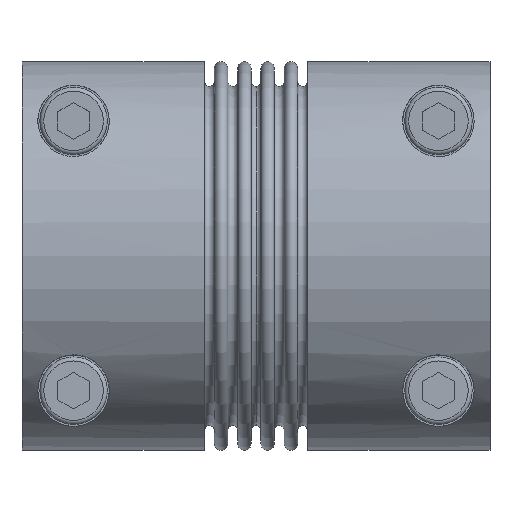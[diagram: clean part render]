
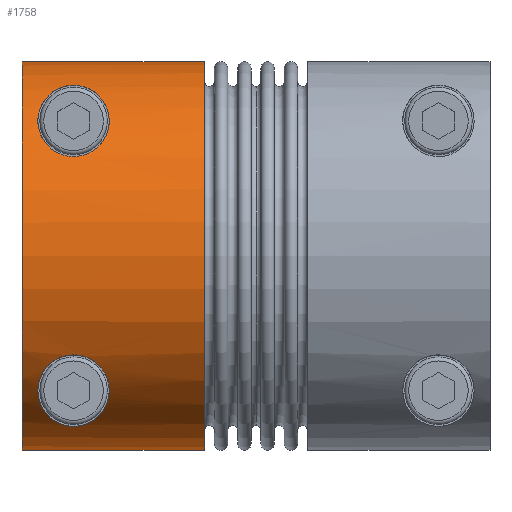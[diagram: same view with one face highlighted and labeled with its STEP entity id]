
A CAD part, top view. The second image highlights one B-rep face of the part: STEP entity #1758.
In plain terms, the highlighted cylindrical face has radius 24.5 mm (diameter 49 mm), a full revolution.
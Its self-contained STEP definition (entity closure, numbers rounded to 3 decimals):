
#89=FACE_BOUND('',#563,.T.);
#90=FACE_BOUND('',#564,.T.);
#121=B_SPLINE_CURVE_WITH_KNOTS('',3,(#2847,#2848,#2849,#2850,#2851,#2852,
#2853,#2854,#2855,#2856,#2857,#2858,#2859,#2860,#2861,#2862,#2863,#2864,
#2865,#2866,#2867,#2868,#2869,#2870,#2871,#2872,#2873,#2874,#2875,#2876,
#2877,#2878,#2879,#2880,#2881,#2882,#2883,#2884),.UNSPECIFIED.,.T.,.F.,
(4,2,2,2,2,2,2,2,2,2,2,2,2,2,2,2,2,2,4),(0.,0.166,0.332,
0.553,0.774,1.048,1.321,1.501,
1.591,1.68,1.77,1.86,2.039,
2.313,2.586,2.808,3.029,3.195,
3.361),.UNSPECIFIED.);
#122=B_SPLINE_CURVE_WITH_KNOTS('',3,(#2890,#2891,#2892,#2893,#2894,#2895,
#2896,#2897,#2898,#2899,#2900,#2901,#2902,#2903,#2904,#2905,#2906,#2907,
#2908,#2909,#2910,#2911,#2912,#2913,#2914,#2915,#2916,#2917,#2918,#2919,
#2920,#2921,#2922,#2923,#2924,#2925,#2926,#2927),.UNSPECIFIED.,.T.,.F.,
(4,2,2,2,2,2,2,2,2,2,2,2,2,2,2,2,2,2,4),(0.,0.09,0.179,
0.359,0.633,0.906,1.127,1.348,
1.514,1.68,1.846,2.012,2.233,
2.454,2.728,3.002,3.181,3.271,
3.361),.UNSPECIFIED.);
#138=LINE('',#2941,#279);
#139=LINE('',#2945,#280);
#140=LINE('',#2949,#281);
#279=VECTOR('',#2252,24.5);
#280=VECTOR('',#2255,15.);
#281=VECTOR('',#2258,15.);
#420=CYLINDRICAL_SURFACE('',#1948,24.5);
#453=FACE_OUTER_BOUND('',#562,.T.);
#562=EDGE_LOOP('',(#1311,#1312,#1313,#1314,#1315,#1316,#1317,#1318));
#563=EDGE_LOOP('',(#1319));
#564=EDGE_LOOP('',(#1320));
#743=CIRCLE('',#1949,24.5);
#744=CIRCLE('',#1950,24.5);
#745=CIRCLE('',#1951,24.5);
#746=CIRCLE('',#1952,24.5);
#831=VERTEX_POINT('',#2846);
#833=VERTEX_POINT('',#2889);
#837=VERTEX_POINT('',#2938);
#838=VERTEX_POINT('',#2940);
#839=VERTEX_POINT('',#2942);
#840=VERTEX_POINT('',#2944);
#841=VERTEX_POINT('',#2946);
#842=VERTEX_POINT('',#2948);
#1023=EDGE_CURVE('',#831,#831,#121,.T.);
#1026=EDGE_CURVE('',#833,#833,#122,.T.);
#1032=EDGE_CURVE('',#837,#837,#743,.T.);
#1033=EDGE_CURVE('',#837,#838,#138,.T.);
#1034=EDGE_CURVE('',#839,#838,#744,.T.);
#1035=EDGE_CURVE('',#840,#839,#139,.T.);
#1036=EDGE_CURVE('',#841,#840,#745,.T.);
#1037=EDGE_CURVE('',#842,#841,#140,.T.);
#1038=EDGE_CURVE('',#838,#842,#746,.T.);
#1311=ORIENTED_EDGE('',*,*,#1032,.T.);
#1312=ORIENTED_EDGE('',*,*,#1033,.T.);
#1313=ORIENTED_EDGE('',*,*,#1034,.F.);
#1314=ORIENTED_EDGE('',*,*,#1035,.F.);
#1315=ORIENTED_EDGE('',*,*,#1036,.F.);
#1316=ORIENTED_EDGE('',*,*,#1037,.F.);
#1317=ORIENTED_EDGE('',*,*,#1038,.F.);
#1318=ORIENTED_EDGE('',*,*,#1033,.F.);
#1319=ORIENTED_EDGE('',*,*,#1026,.F.);
#1320=ORIENTED_EDGE('',*,*,#1023,.F.);
#1758=ADVANCED_FACE('',(#453,#89,#90),#420,.T.);
#1948=AXIS2_PLACEMENT_3D('',#2937,#2248,#2249);
#1949=AXIS2_PLACEMENT_3D('',#2939,#2250,#2251);
#1950=AXIS2_PLACEMENT_3D('',#2943,#2253,#2254);
#1951=AXIS2_PLACEMENT_3D('',#2947,#2256,#2257);
#1952=AXIS2_PLACEMENT_3D('',#2950,#2259,#2260);
#2248=DIRECTION('center_axis',(1.,0.,0.));
#2249=DIRECTION('ref_axis',(0.,1.,0.));
#2250=DIRECTION('center_axis',(-1.,0.,0.));
#2251=DIRECTION('ref_axis',(0.,1.,0.));
#2252=DIRECTION('',(-1.,0.,0.));
#2253=DIRECTION('center_axis',(-1.,0.,0.));
#2254=DIRECTION('ref_axis',(0.,-1.,0.));
#2255=DIRECTION('',(1.,0.,0.));
#2256=DIRECTION('center_axis',(-1.,0.,0.));
#2257=DIRECTION('ref_axis',(0.,1.,0.));
#2258=DIRECTION('',(-1.,0.,0.));
#2259=DIRECTION('center_axis',(-1.,0.,0.));
#2260=DIRECTION('ref_axis',(0.,-1.,0.));
#2846=CARTESIAN_POINT('',(6.5,-12.5,21.071));
#2847=CARTESIAN_POINT('Ctrl Pts',(6.5,-12.5,21.071));
#2848=CARTESIAN_POINT('Ctrl Pts',(5.947,-12.5,21.071));
#2849=CARTESIAN_POINT('Ctrl Pts',(5.363,-12.609,21.008));
#2850=CARTESIAN_POINT('Ctrl Pts',(4.304,-13.031,20.749));
#2851=CARTESIAN_POINT('Ctrl Pts',(3.83,-13.343,20.552));
#2852=CARTESIAN_POINT('Ctrl Pts',(2.964,-14.137,20.017));
#2853=CARTESIAN_POINT('Ctrl Pts',(2.58,-14.701,19.613));
#2854=CARTESIAN_POINT('Ctrl Pts',(2.099,-15.868,18.682));
#2855=CARTESIAN_POINT('Ctrl Pts',(2.,-16.469,18.154));
#2856=CARTESIAN_POINT('Ctrl Pts',(2.,-17.657,17.01));
#2857=CARTESIAN_POINT('Ctrl Pts',(2.149,-18.324,16.29));
#2858=CARTESIAN_POINT('Ctrl Pts',(2.712,-19.518,14.839));
#2859=CARTESIAN_POINT('Ctrl Pts',(3.124,-20.046,14.106));
#2860=CARTESIAN_POINT('Ctrl Pts',(3.958,-20.738,13.055));
#2861=CARTESIAN_POINT('Ctrl Pts',(4.375,-21.001,12.623));
#2862=CARTESIAN_POINT('Ctrl Pts',(5.104,-21.286,12.132));
#2863=CARTESIAN_POINT('Ctrl Pts',(5.364,-21.363,11.995));
#2864=CARTESIAN_POINT('Ctrl Pts',(5.912,-21.47,11.802));
#2865=CARTESIAN_POINT('Ctrl Pts',(6.201,-21.5,11.747));
#2866=CARTESIAN_POINT('Ctrl Pts',(6.799,-21.5,11.747));
#2867=CARTESIAN_POINT('Ctrl Pts',(7.088,-21.47,11.802));
#2868=CARTESIAN_POINT('Ctrl Pts',(7.636,-21.363,11.995));
#2869=CARTESIAN_POINT('Ctrl Pts',(7.896,-21.286,12.132));
#2870=CARTESIAN_POINT('Ctrl Pts',(8.625,-21.001,12.623));
#2871=CARTESIAN_POINT('Ctrl Pts',(9.042,-20.738,13.055));
#2872=CARTESIAN_POINT('Ctrl Pts',(9.876,-20.046,14.106));
#2873=CARTESIAN_POINT('Ctrl Pts',(10.288,-19.518,14.839));
#2874=CARTESIAN_POINT('Ctrl Pts',(10.851,-18.324,16.29));
#2875=CARTESIAN_POINT('Ctrl Pts',(11.,-17.657,17.01));
#2876=CARTESIAN_POINT('Ctrl Pts',(11.,-16.469,18.154));
#2877=CARTESIAN_POINT('Ctrl Pts',(10.901,-15.868,18.682));
#2878=CARTESIAN_POINT('Ctrl Pts',(10.42,-14.701,19.613));
#2879=CARTESIAN_POINT('Ctrl Pts',(10.036,-14.137,20.017));
#2880=CARTESIAN_POINT('Ctrl Pts',(9.17,-13.343,20.552));
#2881=CARTESIAN_POINT('Ctrl Pts',(8.696,-13.031,20.749));
#2882=CARTESIAN_POINT('Ctrl Pts',(7.637,-12.609,21.008));
#2883=CARTESIAN_POINT('Ctrl Pts',(7.053,-12.5,21.071));
#2884=CARTESIAN_POINT('Ctrl Pts',(6.5,-12.5,21.071));
#2889=CARTESIAN_POINT('',(6.5,12.5,21.071));
#2890=CARTESIAN_POINT('Ctrl Pts',(6.5,21.5,11.747));
#2891=CARTESIAN_POINT('Ctrl Pts',(6.201,21.5,11.747));
#2892=CARTESIAN_POINT('Ctrl Pts',(5.912,21.47,11.802));
#2893=CARTESIAN_POINT('Ctrl Pts',(5.364,21.363,11.995));
#2894=CARTESIAN_POINT('Ctrl Pts',(5.104,21.286,12.132));
#2895=CARTESIAN_POINT('Ctrl Pts',(4.375,21.001,12.623));
#2896=CARTESIAN_POINT('Ctrl Pts',(3.958,20.738,13.055));
#2897=CARTESIAN_POINT('Ctrl Pts',(3.124,20.046,14.106));
#2898=CARTESIAN_POINT('Ctrl Pts',(2.712,19.518,14.839));
#2899=CARTESIAN_POINT('Ctrl Pts',(2.149,18.324,16.29));
#2900=CARTESIAN_POINT('Ctrl Pts',(2.,17.657,17.01));
#2901=CARTESIAN_POINT('Ctrl Pts',(2.,16.469,18.154));
#2902=CARTESIAN_POINT('Ctrl Pts',(2.099,15.868,18.682));
#2903=CARTESIAN_POINT('Ctrl Pts',(2.58,14.701,19.613));
#2904=CARTESIAN_POINT('Ctrl Pts',(2.964,14.137,20.017));
#2905=CARTESIAN_POINT('Ctrl Pts',(3.83,13.343,20.552));
#2906=CARTESIAN_POINT('Ctrl Pts',(4.304,13.031,20.749));
#2907=CARTESIAN_POINT('Ctrl Pts',(5.363,12.609,21.008));
#2908=CARTESIAN_POINT('Ctrl Pts',(5.947,12.5,21.071));
#2909=CARTESIAN_POINT('Ctrl Pts',(7.053,12.5,21.071));
#2910=CARTESIAN_POINT('Ctrl Pts',(7.637,12.609,21.008));
#2911=CARTESIAN_POINT('Ctrl Pts',(8.696,13.031,20.749));
#2912=CARTESIAN_POINT('Ctrl Pts',(9.17,13.343,20.552));
#2913=CARTESIAN_POINT('Ctrl Pts',(10.036,14.137,20.017));
#2914=CARTESIAN_POINT('Ctrl Pts',(10.42,14.701,19.613));
#2915=CARTESIAN_POINT('Ctrl Pts',(10.901,15.868,18.682));
#2916=CARTESIAN_POINT('Ctrl Pts',(11.,16.469,18.154));
#2917=CARTESIAN_POINT('Ctrl Pts',(11.,17.657,17.01));
#2918=CARTESIAN_POINT('Ctrl Pts',(10.851,18.324,16.29));
#2919=CARTESIAN_POINT('Ctrl Pts',(10.288,19.518,14.839));
#2920=CARTESIAN_POINT('Ctrl Pts',(9.876,20.046,14.106));
#2921=CARTESIAN_POINT('Ctrl Pts',(9.042,20.738,13.055));
#2922=CARTESIAN_POINT('Ctrl Pts',(8.625,21.001,12.623));
#2923=CARTESIAN_POINT('Ctrl Pts',(7.896,21.286,12.132));
#2924=CARTESIAN_POINT('Ctrl Pts',(7.636,21.363,11.995));
#2925=CARTESIAN_POINT('Ctrl Pts',(7.088,21.47,11.802));
#2926=CARTESIAN_POINT('Ctrl Pts',(6.799,21.5,11.747));
#2927=CARTESIAN_POINT('Ctrl Pts',(6.5,21.5,11.747));
#2937=CARTESIAN_POINT('Origin',(0.,0.,0.));
#2938=CARTESIAN_POINT('',(23.,-24.5,0.));
#2939=CARTESIAN_POINT('Origin',(23.,0.,0.));
#2940=CARTESIAN_POINT('',(15.,-24.5,0.));
#2941=CARTESIAN_POINT('',(0.,-24.5,0.));
#2942=CARTESIAN_POINT('',(15.,24.489,0.75));
#2943=CARTESIAN_POINT('Origin',(15.,0.,0.));
#2944=CARTESIAN_POINT('',(0.,24.489,0.75));
#2945=CARTESIAN_POINT('',(0.,24.489,0.75));
#2946=CARTESIAN_POINT('',(0.,-24.489,0.75));
#2947=CARTESIAN_POINT('Origin',(0.,0.,0.));
#2948=CARTESIAN_POINT('',(15.,-24.489,0.75));
#2949=CARTESIAN_POINT('',(15.,-24.489,0.75));
#2950=CARTESIAN_POINT('Origin',(15.,0.,0.));
